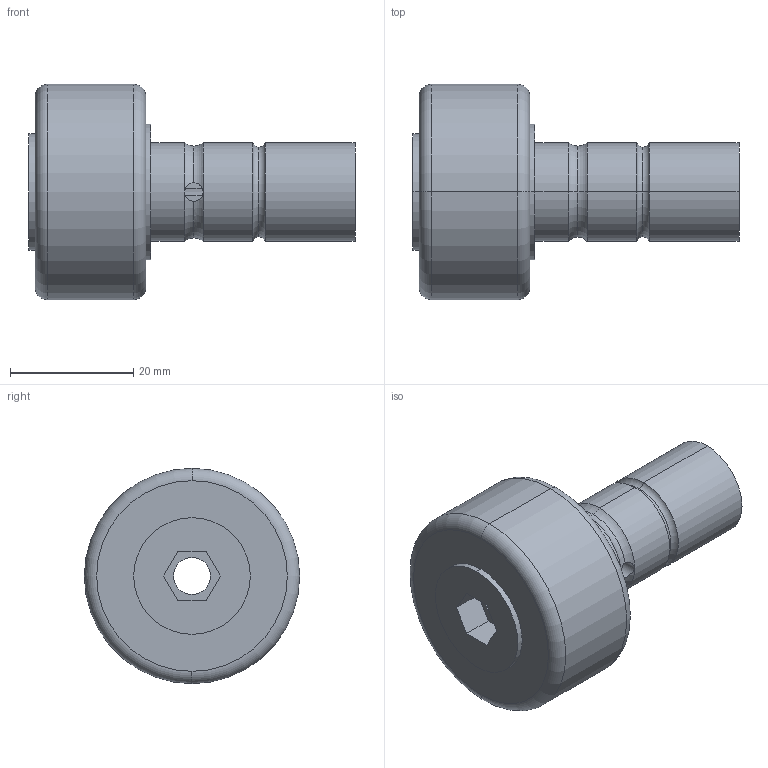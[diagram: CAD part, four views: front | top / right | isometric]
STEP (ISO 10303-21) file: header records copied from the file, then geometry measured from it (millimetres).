
FILE_DESCRIPTION (( 'STEP AP214' ), '1' );
FILE_NAME ('3DNUKR35.STEP', '2013-12-19T08:03:51', ( 'usuario' ), ( 'Hewlett-Packard Company' ), 'SwSTEP 2.0', 'SolidWorks 2017', '' );
FILE_SCHEMA (( 'AUTOMOTIVE_DESIGN' ));
Length unit declared in the file: millimetre
Products named in the file (1): 3DNUKR35
Bounding box: 53 x 35 x 35 mm (x, y, z)
Volume: 22487.3 mm3; surface area: 6593.2 mm2
Topology: 1 solids, 1 shells, 51 faces, 115 edges, 70 vertices
Faces by surface type: plane 21, cylinder 16, torus 14
Entity records: 1520 total; most frequent: CARTESIAN_POINT 303, DIRECTION 268, ORIENTED_EDGE 230, EDGE_CURVE 115, AXIS2_PLACEMENT_3D 107, VERTEX_POINT 70, EDGE_LOOP 59, CIRCLE 55
